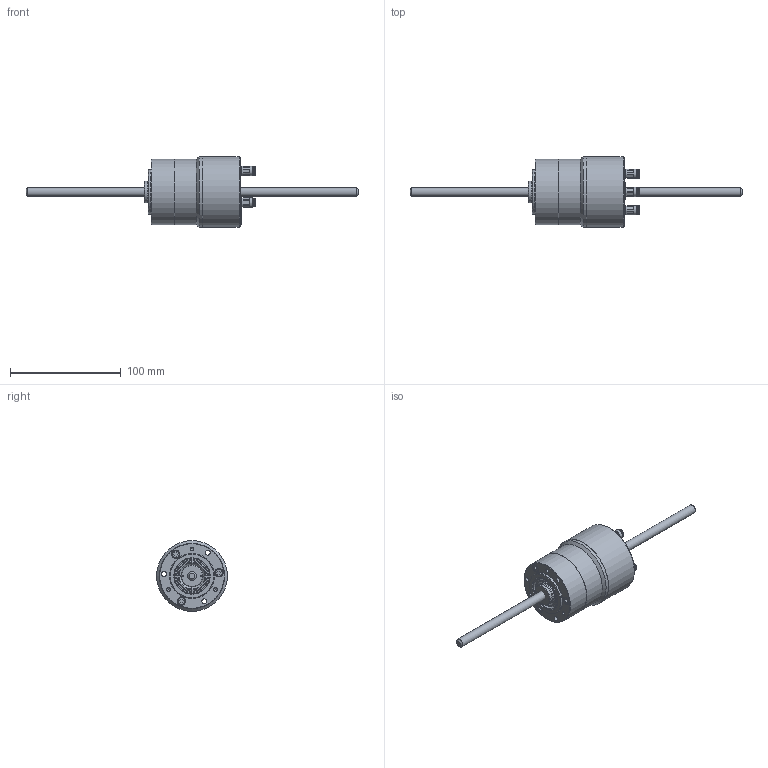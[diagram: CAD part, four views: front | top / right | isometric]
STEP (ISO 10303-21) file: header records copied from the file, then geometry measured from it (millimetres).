
FILE_DESCRIPTION(/* description */ (''),/* implementation_level */ '2;1');
FILE_NAME(/* name */ 'G:\02 CAD Dateien\02 - CAD Schrittmotoren BPS\01 - Standart Produkte\BPS 1620-23\Verkaufsunterlagen\STEP ab JULI 2017\500-1623-371 Schrittmotor BPS-1623-SR2.stp',/* time_stamp */ '2017-12-20T13:44:14+01:00',/* author */ ('RSc'),/* organization */ (''),/* preprocessor_version */ 'ST-DEVELOPER v16.1',/* originating_system */ 'Autodesk Inventor 2016',/* authorisation */ '');
FILE_SCHEMA (('AUTOMOTIVE_DESIGN { 1 0 10303 214 3 1 1 }'));
Length unit declared in the file: millimetre
Products named in the file (3): Bauteil40; 500-16-295 Spindel 8x2; Baugruppe12
Assembly tree (2 placements, depth 2):
  Baugruppe12
    Bauteil40
    500-16-295 Spindel 8x2
Bounding box: 300 x 64 x 64 mm (x, y, z)
Volume: 248213 mm3; surface area: 41297.4 mm2
Topology: 3 solids, 9 shells, 326 faces, 769 edges, 494 vertices
Faces by surface type: plane 164, cylinder 73, cone 48, bspline 31, torus 10
Full cylindrical faces by diameter (mm): 0.9 x2, 3 x1, 3.242 x3, 4 x6, 4.5 x6, 5.2 x3, 6.65 x1, 7 x3, 7.5 x3, 7.8 x3, 8 x1, 8.1 x3, 8.5 x3, 9 x1, 10.5 x1, 16 x1, 19.5 x1, 20 x1, 25.4 x1, 32 x1, 40 x1, 59 x2, 64 x2
Entity records: 9335 total; most frequent: CARTESIAN_POINT 1957, DIRECTION 1398, ORIENTED_EDGE 1334, EDGE_CURVE 662, AXIS2_PLACEMENT_3D 542, VERTEX_POINT 469, EDGE_LOOP 459, FACE_OUTER_BOUND 326
